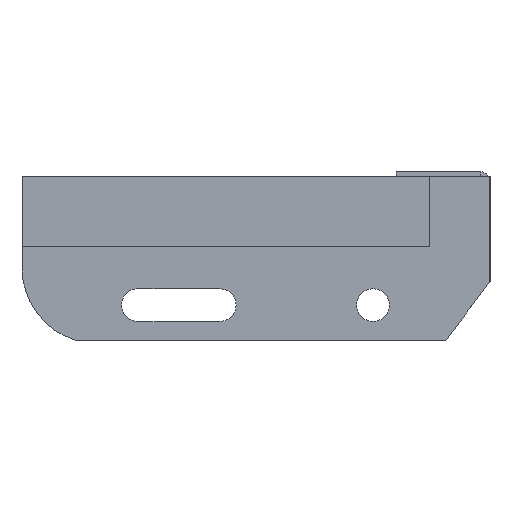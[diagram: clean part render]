
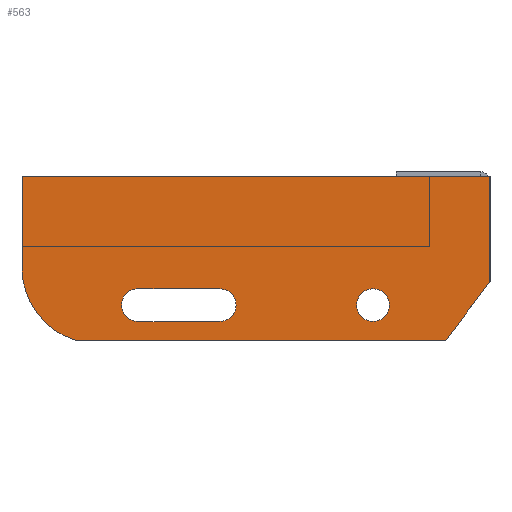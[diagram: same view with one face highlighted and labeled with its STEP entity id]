
A CAD part, left-side view. The second image highlights one B-rep face of the part: STEP entity #563.
In plain terms, the highlighted planar face has unit normal (-1, 0, 0) as drawn and (0, 0, 1) by its records, which use the part's own axes.
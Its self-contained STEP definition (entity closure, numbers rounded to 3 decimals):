
#40 = CARTESIAN_POINT ( 'NONE',  ( -177.26, -70., 3. ) ) ;
#51 = DIRECTION ( 'NONE',  ( 0., 1., 0. ) ) ;
#61 = DIRECTION ( 'NONE',  ( 1., 0., 0. ) ) ;
#79 = DIRECTION ( 'NONE',  ( 1., 0., 0. ) ) ;
#82 = LINE ( 'NONE', #564, #702 ) ;
#85 = CARTESIAN_POINT ( 'NONE',  ( -43., -55., 3. ) ) ;
#90 = ORIENTED_EDGE ( 'NONE', *, *, #686, .F. ) ;
#93 = VECTOR ( 'NONE', #180, 1000. ) ;
#111 = CARTESIAN_POINT ( 'NONE',  ( -200., 0., 3. ) ) ;
#124 = AXIS2_PLACEMENT_3D ( 'NONE', #1731, #793, #805 ) ;
#133 = ORIENTED_EDGE ( 'NONE', *, *, #1991, .F. ) ;
#165 = LINE ( 'NONE', #620, #1065 ) ;
#179 = AXIS2_PLACEMENT_3D ( 'NONE', #1896, #636, #338 ) ;
#180 = DIRECTION ( 'NONE',  ( -1., 0., 0. ) ) ;
#186 = VERTEX_POINT ( 'NONE', #387 ) ;
#192 = ORIENTED_EDGE ( 'NONE', *, *, #1323, .T. ) ;
#209 = EDGE_CURVE ( 'NONE', #1240, #1763, #82, .T. ) ;
#217 = ORIENTED_EDGE ( 'NONE', *, *, #233, .F. ) ;
#228 = CARTESIAN_POINT ( 'NONE',  ( -50., -55., 3. ) ) ;
#233 = EDGE_CURVE ( 'NONE', #1700, #1969, #893, .T. ) ;
#267 = ORIENTED_EDGE ( 'NONE', *, *, #498, .F. ) ;
#283 = AXIS2_PLACEMENT_3D ( 'NONE', #690, #1479, #61 ) ;
#304 = DIRECTION ( 'NONE',  ( 0., 0., 1. ) ) ;
#309 = CARTESIAN_POINT ( 'NONE',  ( -57., -55., 3. ) ) ;
#311 = FACE_OUTER_BOUND ( 'NONE', #1872, .T. ) ;
#335 = CARTESIAN_POINT ( 'NONE',  ( -150.5, -62., 3. ) ) ;
#338 = DIRECTION ( 'NONE',  ( 1., 0., 0. ) ) ;
#344 = VERTEX_POINT ( 'NONE', #111 ) ;
#384 = DIRECTION ( 'NONE',  ( 0., -1., 0. ) ) ;
#387 = CARTESIAN_POINT ( 'NONE',  ( -150.5, -62., 3. ) ) ;
#412 = EDGE_LOOP ( 'NONE', ( #1469, #133 ) ) ;
#413 = CARTESIAN_POINT ( 'NONE',  ( -115.5, -62., 3. ) ) ;
#448 = CARTESIAN_POINT ( 'NONE',  ( -18.839, -70., 3. ) ) ;
#474 = DIRECTION ( 'NONE',  ( 1., 0., 0. ) ) ;
#489 = PLANE ( 'NONE',  #1683 ) ;
#498 = EDGE_CURVE ( 'NONE', #616, #186, #544, .T. ) ;
#504 = ORIENTED_EDGE ( 'NONE', *, *, #209, .T. ) ;
#528 = EDGE_CURVE ( 'NONE', #606, #974, #817, .T. ) ;
#544 = CIRCLE ( 'NONE', #124, 7. ) ;
#550 = AXIS2_PLACEMENT_3D ( 'NONE', #1821, #1793, #1988 ) ;
#563 = ADVANCED_FACE ( 'NONE', ( #311, #1401, #772 ), #489, .T. ) ;
#564 = CARTESIAN_POINT ( 'NONE',  ( 0., 0., 3. ) ) ;
#586 = CIRCLE ( 'NONE', #550, 7. ) ;
#606 = VERTEX_POINT ( 'NONE', #40 ) ;
#616 = VERTEX_POINT ( 'NONE', #1084 ) ;
#619 = ORIENTED_EDGE ( 'NONE', *, *, #1897, .T. ) ;
#620 = CARTESIAN_POINT ( 'NONE',  ( 0., -45., 3. ) ) ;
#630 = CARTESIAN_POINT ( 'NONE',  ( -18.839, -70., 3. ) ) ;
#636 = DIRECTION ( 'NONE',  ( 0., 0., 1. ) ) ;
#649 = DIRECTION ( 'NONE',  ( 1., 0., 0. ) ) ;
#653 = EDGE_CURVE ( 'NONE', #1140, #2001, #1228, .T. ) ;
#657 = CARTESIAN_POINT ( 'NONE',  ( 0., -45., 3. ) ) ;
#686 = EDGE_CURVE ( 'NONE', #1969, #616, #1581, .T. ) ;
#690 = CARTESIAN_POINT ( 'NONE',  ( -150.5, -55., 3. ) ) ;
#702 = VECTOR ( 'NONE', #51, 1000. ) ;
#732 = DIRECTION ( 'NONE',  ( -1., 0., 0. ) ) ;
#733 = EDGE_CURVE ( 'NONE', #344, #1501, #1458, .T. ) ;
#767 = VECTOR ( 'NONE', #732, 1000. ) ;
#772 = FACE_BOUND ( 'NONE', #1036, .T. ) ;
#782 = ORIENTED_EDGE ( 'NONE', *, *, #733, .T. ) ;
#791 = DIRECTION ( 'NONE',  ( 0.602, 0.799, 0. ) ) ;
#793 = DIRECTION ( 'NONE',  ( 0., 0., 1. ) ) ;
#805 = DIRECTION ( 'NONE',  ( 1., 0., 0. ) ) ;
#807 = CIRCLE ( 'NONE', #179, 7. ) ;
#817 = LINE ( 'NONE', #630, #1163 ) ;
#824 = VERTEX_POINT ( 'NONE', #413 ) ;
#856 = CARTESIAN_POINT ( 'NONE',  ( -150.5, -48., 3. ) ) ;
#865 = AXIS2_PLACEMENT_3D ( 'NONE', #228, #1787, #79 ) ;
#868 = VECTOR ( 'NONE', #384, 1000. ) ;
#893 = LINE ( 'NONE', #1369, #767 ) ;
#908 = CIRCLE ( 'NONE', #1200, 32.5 ) ;
#957 = DIRECTION ( 'NONE',  ( 1., 0., 0. ) ) ;
#974 = VERTEX_POINT ( 'NONE', #448 ) ;
#1006 = DIRECTION ( 'NONE',  ( 1., 0., 0. ) ) ;
#1036 = EDGE_LOOP ( 'NONE', ( #1965, #267, #90, #217, #1845 ) ) ;
#1065 = VECTOR ( 'NONE', #791, 1000. ) ;
#1080 = EDGE_CURVE ( 'NONE', #824, #1700, #807, .T. ) ;
#1084 = CARTESIAN_POINT ( 'NONE',  ( -157.5, -55., 3. ) ) ;
#1095 = EDGE_CURVE ( 'NONE', #974, #1240, #165, .T. ) ;
#1140 = VERTEX_POINT ( 'NONE', #309 ) ;
#1163 = VECTOR ( 'NONE', #474, 1000. ) ;
#1200 = AXIS2_PLACEMENT_3D ( 'NONE', #1295, #1436, #1006 ) ;
#1228 = CIRCLE ( 'NONE', #865, 7. ) ;
#1240 = VERTEX_POINT ( 'NONE', #657 ) ;
#1245 = ORIENTED_EDGE ( 'NONE', *, *, #1095, .T. ) ;
#1272 = LINE ( 'NONE', #1612, #93 ) ;
#1284 = CARTESIAN_POINT ( 'NONE',  ( -200., 0., 3. ) ) ;
#1295 = CARTESIAN_POINT ( 'NONE',  ( -167.5, -39., 3. ) ) ;
#1307 = ORIENTED_EDGE ( 'NONE', *, *, #528, .T. ) ;
#1323 = EDGE_CURVE ( 'NONE', #1501, #606, #908, .T. ) ;
#1369 = CARTESIAN_POINT ( 'NONE',  ( -150.5, -48., 3. ) ) ;
#1401 = FACE_BOUND ( 'NONE', #412, .T. ) ;
#1427 = CARTESIAN_POINT ( 'NONE',  ( -167.5, -39., 3. ) ) ;
#1436 = DIRECTION ( 'NONE',  ( 0., 0., 1. ) ) ;
#1458 = LINE ( 'NONE', #1284, #868 ) ;
#1469 = ORIENTED_EDGE ( 'NONE', *, *, #653, .F. ) ;
#1479 = DIRECTION ( 'NONE',  ( 0., 0., 1. ) ) ;
#1499 = CARTESIAN_POINT ( 'NONE',  ( -200., -39., 3. ) ) ;
#1501 = VERTEX_POINT ( 'NONE', #1499 ) ;
#1581 = CIRCLE ( 'NONE', #283, 7. ) ;
#1591 = CARTESIAN_POINT ( 'NONE',  ( 0., 0., 3. ) ) ;
#1612 = CARTESIAN_POINT ( 'NONE',  ( 0., 0., 3. ) ) ;
#1683 = AXIS2_PLACEMENT_3D ( 'NONE', #1427, #304, #649 ) ;
#1690 = CARTESIAN_POINT ( 'NONE',  ( -115.5, -48., 3. ) ) ;
#1700 = VERTEX_POINT ( 'NONE', #1690 ) ;
#1731 = CARTESIAN_POINT ( 'NONE',  ( -150.5, -55., 3. ) ) ;
#1763 = VERTEX_POINT ( 'NONE', #1591 ) ;
#1771 = LINE ( 'NONE', #335, #1853 ) ;
#1787 = DIRECTION ( 'NONE',  ( 0., 0., 1. ) ) ;
#1793 = DIRECTION ( 'NONE',  ( 0., 0., 1. ) ) ;
#1821 = CARTESIAN_POINT ( 'NONE',  ( -50., -55., 3. ) ) ;
#1845 = ORIENTED_EDGE ( 'NONE', *, *, #1080, .F. ) ;
#1853 = VECTOR ( 'NONE', #957, 1000. ) ;
#1862 = EDGE_CURVE ( 'NONE', #186, #824, #1771, .T. ) ;
#1872 = EDGE_LOOP ( 'NONE', ( #504, #619, #782, #192, #1307, #1245 ) ) ;
#1896 = CARTESIAN_POINT ( 'NONE',  ( -115.5, -55., 3. ) ) ;
#1897 = EDGE_CURVE ( 'NONE', #1763, #344, #1272, .T. ) ;
#1965 = ORIENTED_EDGE ( 'NONE', *, *, #1862, .F. ) ;
#1969 = VERTEX_POINT ( 'NONE', #856 ) ;
#1988 = DIRECTION ( 'NONE',  ( 1., 0., 0. ) ) ;
#1991 = EDGE_CURVE ( 'NONE', #2001, #1140, #586, .T. ) ;
#2001 = VERTEX_POINT ( 'NONE', #85 ) ;
